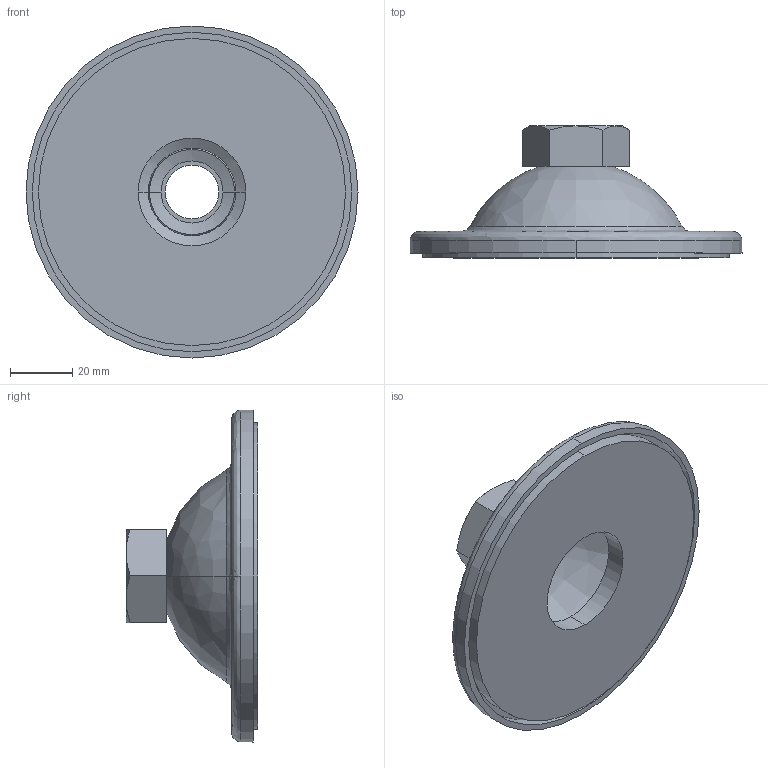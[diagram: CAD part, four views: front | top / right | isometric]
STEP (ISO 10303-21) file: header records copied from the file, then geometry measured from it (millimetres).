
FILE_DESCRIPTION (( 'STEP AP203' ), '1' );
FILE_NAME ('S-HCS-20.STEP', '2013-08-24T04:57:15', ( 'SDS' ), ( 'SDS' ), 'SwSTEP 2.0', 'SolidWorks 2002296', '' );
FILE_SCHEMA (( 'CONFIG_CONTROL_DESIGN' ));
Length unit declared in the file: millimetre
Products named in the file (1): S-HCS-20
Bounding box: 107 x 42.5 x 107 mm (x, y, z)
Volume: 75209.6 mm3; surface area: 35469.4 mm2
Topology: 1 solids, 1 shells, 46 faces, 104 edges, 66 vertices
Faces by surface type: plane 14, cylinder 12, bspline 12, cone 8
Entity records: 1611 total; most frequent: CARTESIAN_POINT 559, ORIENTED_EDGE 208, DIRECTION 200, EDGE_CURVE 104, AXIS2_PLACEMENT_3D 87, VERTEX_POINT 66, EDGE_LOOP 54, CIRCLE 52
